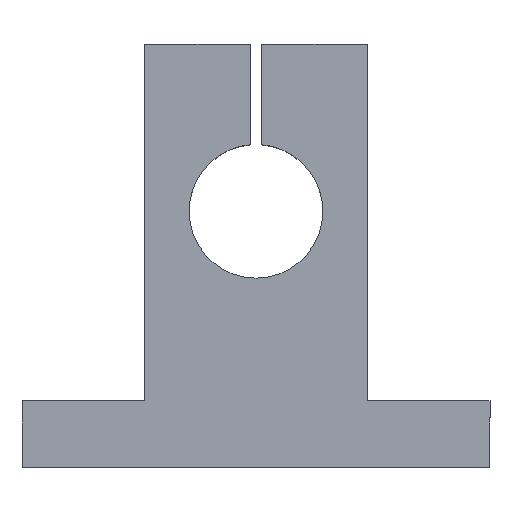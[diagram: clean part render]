
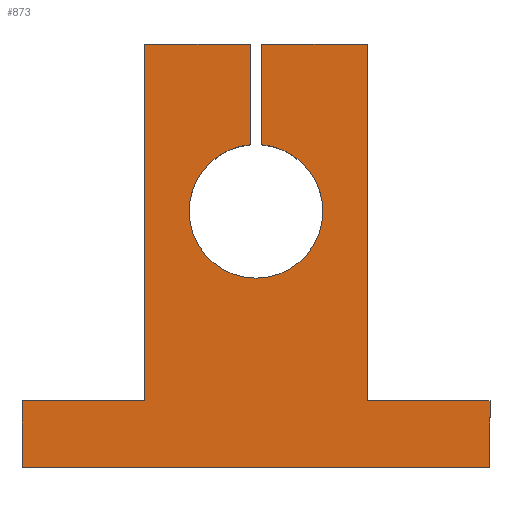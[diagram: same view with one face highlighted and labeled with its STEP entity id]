
A CAD part, top view. The second image highlights one B-rep face of the part: STEP entity #873.
In plain terms, the highlighted planar face has unit normal (0, 0, 1).
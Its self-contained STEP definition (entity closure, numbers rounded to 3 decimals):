
#51=CARTESIAN_POINT('',(27.302,20.903,14.));
#52=VERTEX_POINT('',#51);
#59=CARTESIAN_POINT('',(21.802,26.882,14.));
#60=VERTEX_POINT('',#59);
#61=CARTESIAN_POINT('',(21.302,20.903,14.));
#62=DIRECTION('',(0.0,0.0,-1.0));
#63=DIRECTION('',(-1.0,0.0,0.0));
#64=AXIS2_PLACEMENT_3D('',#61,#62,#63);
#65=CIRCLE('',#64,6.);
#66=EDGE_CURVE('',#60,#52,#65,.T.);
#91=CARTESIAN_POINT('',(15.302,20.903,14.));
#92=VERTEX_POINT('',#91);
#101=CARTESIAN_POINT('',(21.302,20.903,14.));
#102=DIRECTION('',(0.0,0.0,-1.0));
#103=DIRECTION('',(-1.0,0.0,0.0));
#104=AXIS2_PLACEMENT_3D('',#101,#102,#103);
#105=CIRCLE('',#104,6.);
#106=EDGE_CURVE('',#52,#92,#105,.T.);
#590=CARTESIAN_POINT('',(20.802,26.882,14.));
#591=VERTEX_POINT('',#590);
#606=CARTESIAN_POINT('',(20.802,35.903,14.));
#607=VERTEX_POINT('',#606);
#614=CARTESIAN_POINT('',(20.802,26.882,14.));
#615=DIRECTION('',(0.0,1.0,0.0));
#616=VECTOR('',#615,9.021);
#617=LINE('',#614,#616);
#618=EDGE_CURVE('',#591,#607,#617,.T.);
#633=CARTESIAN_POINT('',(21.802,35.903,14.));
#634=VERTEX_POINT('',#633);
#635=CARTESIAN_POINT('',(21.802,35.903,14.));
#636=DIRECTION('',(0.0,-1.0,0.0));
#637=VECTOR('',#636,9.021);
#638=LINE('',#635,#637);
#639=EDGE_CURVE('',#634,#60,#638,.T.);
#676=CARTESIAN_POINT('',(11.302,35.903,14.));
#677=VERTEX_POINT('',#676);
#684=CARTESIAN_POINT('',(11.302,35.903,14.));
#685=DIRECTION('',(1.0,0.0,0.0));
#686=VECTOR('',#685,9.5);
#687=LINE('',#684,#686);
#688=EDGE_CURVE('',#677,#607,#687,.T.);
#699=CARTESIAN_POINT('',(31.302,35.903,14.));
#700=VERTEX_POINT('',#699);
#701=CARTESIAN_POINT('',(21.802,35.903,14.));
#702=DIRECTION('',(1.0,0.0,0.0));
#703=VECTOR('',#702,9.5);
#704=LINE('',#701,#703);
#705=EDGE_CURVE('',#634,#700,#704,.T.);
#799=CARTESIAN_POINT('',(21.302,12.503,14.));
#800=DIRECTION('',(0.0,0.0,1.0));
#801=DIRECTION('',(1.0,0.0,0.0));
#802=AXIS2_PLACEMENT_3D('',#799,#800,#801);
#803=PLANE('',#802);
#804=ORIENTED_EDGE('',*,*,#618,.T.);
#805=ORIENTED_EDGE('',*,*,#688,.F.);
#806=CARTESIAN_POINT('',(11.302,3.903,14.));
#807=VERTEX_POINT('',#806);
#808=CARTESIAN_POINT('',(11.302,3.903,14.));
#809=DIRECTION('',(0.0,1.0,0.0));
#810=VECTOR('',#809,32.0);
#811=LINE('',#808,#810);
#812=EDGE_CURVE('',#807,#677,#811,.T.);
#813=ORIENTED_EDGE('',*,*,#812,.F.);
#814=CARTESIAN_POINT('',(0.302,3.903,14.));
#815=VERTEX_POINT('',#814);
#816=CARTESIAN_POINT('',(0.302,3.903,14.));
#817=DIRECTION('',(1.0,0.0,0.0));
#818=VECTOR('',#817,11.);
#819=LINE('',#816,#818);
#820=EDGE_CURVE('',#815,#807,#819,.T.);
#821=ORIENTED_EDGE('',*,*,#820,.F.);
#822=CARTESIAN_POINT('',(0.302,-2.097,14.));
#823=VERTEX_POINT('',#822);
#824=CARTESIAN_POINT('',(0.302,-2.097,14.));
#825=DIRECTION('',(0.0,1.0,0.0));
#826=VECTOR('',#825,6.);
#827=LINE('',#824,#826);
#828=EDGE_CURVE('',#823,#815,#827,.T.);
#829=ORIENTED_EDGE('',*,*,#828,.F.);
#830=CARTESIAN_POINT('',(42.302,-2.097,14.));
#831=VERTEX_POINT('',#830);
#832=CARTESIAN_POINT('',(42.302,-2.097,14.));
#833=DIRECTION('',(-1.0,0.0,0.0));
#834=VECTOR('',#833,42.);
#835=LINE('',#832,#834);
#836=EDGE_CURVE('',#831,#823,#835,.T.);
#837=ORIENTED_EDGE('',*,*,#836,.F.);
#838=CARTESIAN_POINT('',(42.302,3.903,14.));
#839=VERTEX_POINT('',#838);
#840=CARTESIAN_POINT('',(42.302,3.903,14.));
#841=DIRECTION('',(0.0,-1.0,0.0));
#842=VECTOR('',#841,6.);
#843=LINE('',#840,#842);
#844=EDGE_CURVE('',#839,#831,#843,.T.);
#845=ORIENTED_EDGE('',*,*,#844,.F.);
#846=CARTESIAN_POINT('',(31.302,3.903,14.));
#847=VERTEX_POINT('',#846);
#848=CARTESIAN_POINT('',(31.302,3.903,14.));
#849=DIRECTION('',(1.0,0.0,0.0));
#850=VECTOR('',#849,11.);
#851=LINE('',#848,#850);
#852=EDGE_CURVE('',#847,#839,#851,.T.);
#853=ORIENTED_EDGE('',*,*,#852,.F.);
#854=CARTESIAN_POINT('',(31.302,35.903,14.));
#855=DIRECTION('',(0.0,-1.0,0.0));
#856=VECTOR('',#855,32.0);
#857=LINE('',#854,#856);
#858=EDGE_CURVE('',#700,#847,#857,.T.);
#859=ORIENTED_EDGE('',*,*,#858,.F.);
#860=ORIENTED_EDGE('',*,*,#705,.F.);
#861=ORIENTED_EDGE('',*,*,#639,.T.);
#862=ORIENTED_EDGE('',*,*,#66,.T.);
#863=ORIENTED_EDGE('',*,*,#106,.T.);
#864=CARTESIAN_POINT('',(21.302,20.903,14.));
#865=DIRECTION('',(0.0,0.0,-1.0));
#866=DIRECTION('',(-1.0,0.0,0.0));
#867=AXIS2_PLACEMENT_3D('',#864,#865,#866);
#868=CIRCLE('',#867,6.);
#869=EDGE_CURVE('',#92,#591,#868,.T.);
#870=ORIENTED_EDGE('',*,*,#869,.T.);
#871=EDGE_LOOP('',(#804,#805,#813,#821,#829,#837,#845,#853,#859,#860,#861,#862,#863,#870));
#872=FACE_OUTER_BOUND('',#871,.T.);
#873=ADVANCED_FACE('',(#872),#803,.T.);
